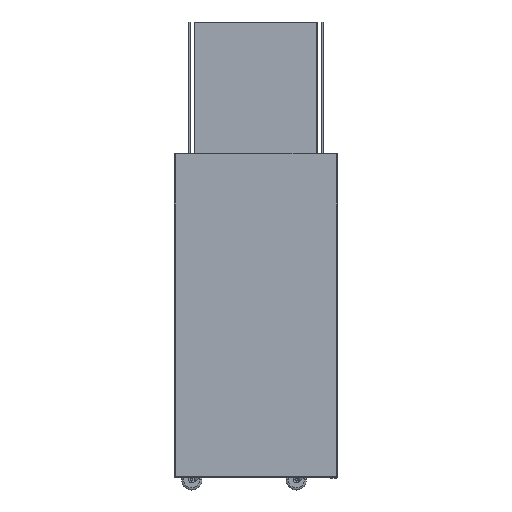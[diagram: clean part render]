
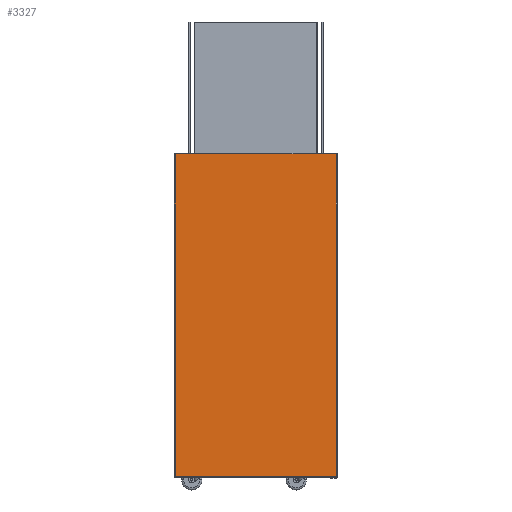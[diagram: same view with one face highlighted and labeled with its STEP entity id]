
A CAD part, left-side view. The second image highlights one B-rep face of the part: STEP entity #3327.
In plain terms, the highlighted planar face has unit normal (-1, 0, 0).
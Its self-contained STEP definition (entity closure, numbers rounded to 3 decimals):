
#2365 = CARTESIAN_POINT ( 'NONE',  ( 0., 3., 790. ) ) ;
#2533 = VECTOR ( 'NONE', #10394, 1000. ) ;
#3327 = ADVANCED_FACE ( 'NONE', ( #24748 ), #20253, .F. ) ;
#10394 = DIRECTION ( 'NONE',  ( 0., 0., 1. ) ) ;
#11103 = ORIENTED_EDGE ( 'NONE', *, *, #33735, .T. ) ;
#11570 = CARTESIAN_POINT ( 'NONE',  ( 0., 399.5, 790. ) ) ;
#12486 = DIRECTION ( 'NONE',  ( 0., 1., 0. ) ) ;
#14614 = CARTESIAN_POINT ( 'NONE',  ( 0., 3., 790. ) ) ;
#16380 = DIRECTION ( 'NONE',  ( 0., -1., 0. ) ) ;
#20253 = PLANE ( 'NONE',  #40636 ) ;
#23270 = VECTOR ( 'NONE', #38861, 1000. ) ;
#23770 = DIRECTION ( 'NONE',  ( 1., 0., 0. ) ) ;
#23792 = ORIENTED_EDGE ( 'NONE', *, *, #44599, .T. ) ;
#24748 = FACE_OUTER_BOUND ( 'NONE', #31719, .T. ) ;
#24760 = CARTESIAN_POINT ( 'NONE',  ( 0., 3., 0. ) ) ;
#24811 = VERTEX_POINT ( 'NONE', #24760 ) ;
#25023 = ORIENTED_EDGE ( 'NONE', *, *, #43677, .F. ) ;
#25415 = VERTEX_POINT ( 'NONE', #29964 ) ;
#26882 = VERTEX_POINT ( 'NONE', #14614 ) ;
#28659 = CARTESIAN_POINT ( 'NONE',  ( 0., 399.5, 0. ) ) ;
#28769 = CARTESIAN_POINT ( 'NONE',  ( 0., 399.5, 790. ) ) ;
#29427 = VERTEX_POINT ( 'NONE', #47554 ) ;
#29964 = CARTESIAN_POINT ( 'NONE',  ( 0., 397., 0. ) ) ;
#30208 = LINE ( 'NONE', #28659, #32274 ) ;
#31719 = EDGE_LOOP ( 'NONE', ( #25023, #36138, #11103, #23792 ) ) ;
#31904 = EDGE_CURVE ( 'NONE', #25415, #29427, #34399, .T. ) ;
#32274 = VECTOR ( 'NONE', #16380, 1000. ) ;
#33735 = EDGE_CURVE ( 'NONE', #25415, #24811, #30208, .T. ) ;
#34134 = LINE ( 'NONE', #11570, #23270 ) ;
#34399 = LINE ( 'NONE', #41904, #37754 ) ;
#36138 = ORIENTED_EDGE ( 'NONE', *, *, #31904, .F. ) ;
#37754 = VECTOR ( 'NONE', #45425, 1000. ) ;
#38861 = DIRECTION ( 'NONE',  ( 0., -1., 0. ) ) ;
#40636 = AXIS2_PLACEMENT_3D ( 'NONE', #28769, #23770, #12486 ) ;
#41904 = CARTESIAN_POINT ( 'NONE',  ( 0., 397., 0. ) ) ;
#43677 = EDGE_CURVE ( 'NONE', #29427, #26882, #34134, .T. ) ;
#43994 = LINE ( 'NONE', #2365, #2533 ) ;
#44599 = EDGE_CURVE ( 'NONE', #24811, #26882, #43994, .T. ) ;
#45425 = DIRECTION ( 'NONE',  ( 0., 0., 1. ) ) ;
#47554 = CARTESIAN_POINT ( 'NONE',  ( 0., 397., 790. ) ) ;
